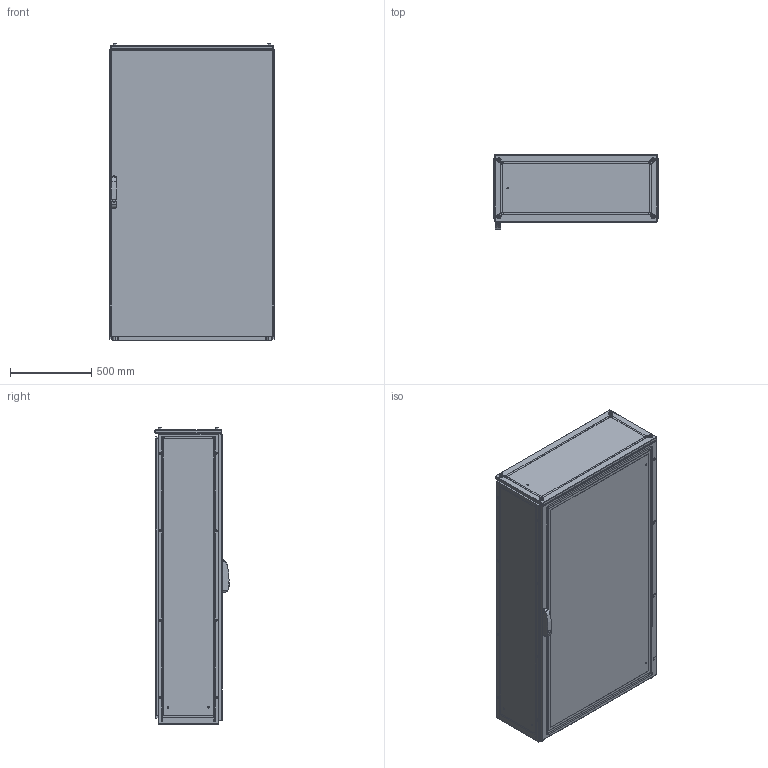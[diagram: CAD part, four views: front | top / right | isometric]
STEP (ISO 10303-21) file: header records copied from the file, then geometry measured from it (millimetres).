
FILE_DESCRIPTION(/* description */ ('STEP AP203'),/* implementation_level */ '2;1');
FILE_NAME(/* name */ 'ENUX-101804PRX-LOD350',/* time_stamp */ '2024-07-01T08:45:08+02:00',/* author */ ('License CC BY-ND 4.0'),/* organization */ ('CADENAS'),/* preprocessor_version */ 'ST-DEVELOPER v19.3',/* originating_system */ 'PARTsolutions',/* authorisation */ ' ');
FILE_SCHEMA (('CONFIG_CONTROL_DESIGN'));
Length unit declared in the file: millimetre
Products named in the file (10): ENUX-101804PRX-LOD350; ENUX-101804PRX-LOD350_CON; ENUX-101804PRX-LOD350_floor1; ENUX-101804PRX-LOD350_floor2; ENUX-101804PRX-LOD350_side; ENUX-101804PRX-LOD350_top; ENUX-101804PRX-LOD350_door; ENUX-101804PRX-LOD350_handle; Rosetta 13x24x2.5 architecture 400; Vite M12x20 architecture 400
Assembly tree (20 placements, depth 2):
  ENUX-101804PRX-LOD350
    ENUX-101804PRX-LOD350_CON
    ENUX-101804PRX-LOD350_floor1  x4
    ENUX-101804PRX-LOD350_floor2  x2
    ENUX-101804PRX-LOD350_side  x2
    ENUX-101804PRX-LOD350_top
    ENUX-101804PRX-LOD350_door
    ENUX-101804PRX-LOD350_handle
    Rosetta 13x24x2.5 architecture 400  x4
    Vite M12x20 architecture 400  x4
Bounding box: 1012 x 455.5 x 1823 mm (x, y, z)
Volume: 18981269.5 mm3; surface area: 13072586 mm2
Topology: 20 solids, 20 shells, 1905 faces, 5323 edges, 3448 vertices
Faces by surface type: plane 970, cylinder 772, cone 91, torus 60, sphere 12
Full cylindrical faces by diameter (mm): 4.5 x144, 6 x17, 6.8 x8, 8 x4, 9 x5, 12 x16, 12.5 x4, 13 x8, 18 x4, 24 x4
Entity records: 46480 total; most frequent: CARTESIAN_POINT 8078, DIRECTION 8005, ORIENTED_EDGE 7528, EDGE_CURVE 3764, AXIS2_PLACEMENT_3D 2844, VERTEX_POINT 2606, LINE 2317, VECTOR 2317
